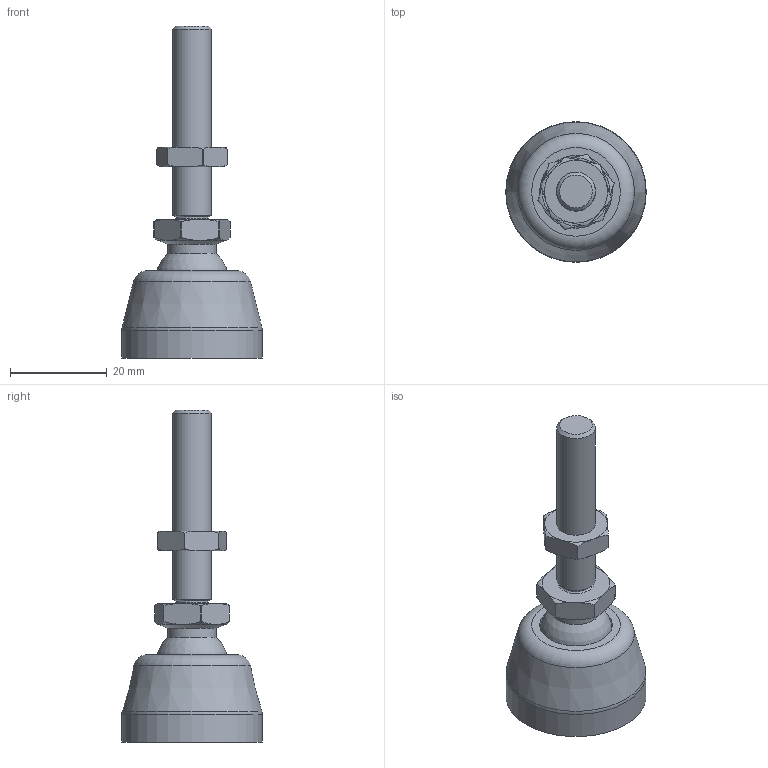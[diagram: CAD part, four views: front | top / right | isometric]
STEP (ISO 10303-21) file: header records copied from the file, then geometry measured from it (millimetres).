
FILE_DESCRIPTION(('STEP AP242'),'1');
FILE_NAME('TAPID30M08040PA.stp','2026-10-12T09:54:07',(' '),(' '),'Spatial InterOp 3D',' ',' ');
FILE_SCHEMA(('AP242_MANAGED_MODEL_BASED_3D_ENGINEERING_MIM_LF {1 0 10303 442 1 1 4}'));
Length unit declared in the file: millimetre
Products named in the file (5): Pied Ø30 M8x40 articulé réglable (+/- 10mm); Ecrou H DIN 439 M8; Tige filetée M8x40 (Ø15); Embase PA Ø30 (Ø15); TAPID30M08040PA
Assembly tree (4 placements, depth 3):
  TAPID30M08040PA
    Pied Ø30 M8x40 articulé réglable (+/- 10mm)
      Ecrou H DIN 439 M8
      Tige filetée M8x40 (Ø15)
      Embase PA Ø30 (Ø15)
Bounding box: 29 x 29 x 68.51 mm (x, y, z)
Volume: 12885.5 mm3; surface area: 5822.2 mm2
Topology: 3 solids, 4 shells, 80 faces, 174 edges, 104 vertices
Faces by surface type: torus 30, plane 22, cylinder 20, cone 6, sphere 2
Full cylindrical faces by diameter (mm): 6.75 x1, 6.8 x1, 8 x2, 10 x1, 15 x1, 21 x1, 29 x1
Entity records: 3358 total; most frequent: CARTESIAN_POINT 870, DIRECTION 346, ORIENTED_EDGE 294, AXIS2_PLACEMENT_3D 161, EDGE_CURVE 147, EDGE_LOOP 106, VERTEX_POINT 99, FACE_OUTER_BOUND 94
